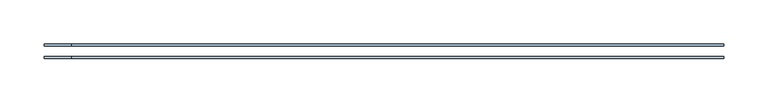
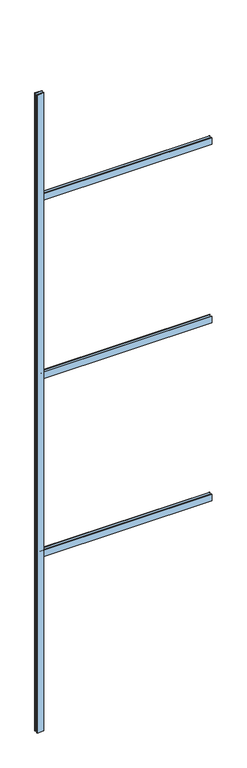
"""IFC4 building model written with IfcOpenShell, lengths in millimetres: window geometry, 32_IM_CF_verdeling_roedes : 32_IM_CF_verdeling_roedes_1x4."""

import ifcopenshell
import ifcopenshell.guid

model = None  # the IFC model being written
_history = None  # IfcOwnerHistory: only IFC2X3 demands one
_inside = {}  # id of a spatial element -> (the spatial element, [elements in it])
_under = {}  # id of a project, library or spatial element -> (it, [spatial elements below it])
_declared = {}  # id of a project -> (the project, [libraries it declares])
_typed = {}  # id of a type object -> (the type object, [elements of that type])
_made_of = {}  # id of a material, layer set ... -> (it, [elements and type objects made of it])


def new_model(schema):
    """Start an empty IFC model of exactly this schema.

    Asked for "IFC4X3", IfcOpenShell would pick the latest addendum, in which some entities
    have other attributes; the version numbers below select the first issue.
    IFC2X3 requires an IfcOwnerHistory on every rooted entity: one is made here for all.
    """
    global model, _history
    if schema == "IFC4X3":
        model = ifcopenshell.file(schema_version=(4, 3, 0, 0))
    else:
        model = ifcopenshell.file(schema=schema)
    _inside.clear()
    _under.clear()
    _declared.clear()
    _typed.clear()
    _made_of.clear()
    _history = None
    if model.schema == "IFC2X3":
        org = make("IfcOrganization", Name="unknown")
        user = make(
            "IfcPersonAndOrganization",
            ThePerson=make("IfcPerson", FamilyName="unknown"),
            TheOrganization=org,
        )
        app = make(
            "IfcApplication",
            ApplicationDeveloper=org,
            Version="unknown",
            ApplicationFullName="unknown",
            ApplicationIdentifier="unknown",
        )
        _history = make(
            "IfcOwnerHistory",
            OwningUser=user,
            OwningApplication=app,
            ChangeAction="ADDED",
            CreationDate=0,
        )
    return model


def make(cls, **values):
    """One entity of the class cls with the attributes given. An attribute that is None is left unset."""
    return model.create_entity(
        cls, **{name: value for name, value in values.items() if value is not None}
    )


def rooted(cls, **values):
    """An entity with a GlobalId (a new one), such as an element, a storey or a relation."""
    return make(cls, GlobalId=ifcopenshell.guid.new(), OwnerHistory=_history, **values)


def si_unit(unit_type, name, prefix=None):
    """IfcSIUnit, for example si_unit("LENGTHUNIT", "METRE", prefix="MILLI")."""
    return make("IfcSIUnit", UnitType=unit_type, Prefix=prefix, Name=name)


def assignment(units):
    """IfcUnitAssignment: the units of a project."""
    return None if units is None else make("IfcUnitAssignment", Units=units)


def point(xyz):
    """IfcCartesianPoint."""
    return None if xyz is None else make("IfcCartesianPoint", Coordinates=xyz)


def direction(xyz):
    """IfcDirection."""
    return None if xyz is None else make("IfcDirection", DirectionRatios=xyz)


def frame(location, z_axis=None, x_axis=None):
    """IfcAxis2Placement3D, a coordinate frame: its origin and axes. An axis left out is left unset."""
    return make(
        "IfcAxis2Placement3D",
        Location=point(location),
        Axis=direction(z_axis),
        RefDirection=direction(x_axis),
    )


def origin():
    """The frame at (0, 0, 0) with its axes left unset."""
    return frame((0.0, 0.0, 0.0))


def origin_with_axes():
    """The frame at (0, 0, 0) with the z axis (0, 0, 1) and the x axis (1, 0, 0) written out."""
    return frame((0.0, 0.0, 0.0), z_axis=(0.0, 0.0, 1.0), x_axis=(1.0, 0.0, 0.0))


def place(relative_to, where):
    """IfcLocalPlacement: puts the frame where relative to a parent placement (None: the world)."""
    return make(
        "IfcLocalPlacement", PlacementRelTo=relative_to, RelativePlacement=where
    )


def context(
    kind, dimensions, precision=None, world=None, true_north=None, identifier=None
):
    """IfcGeometricRepresentationContext, for example the 3D "Model" context."""
    return make(
        "IfcGeometricRepresentationContext",
        ContextIdentifier=identifier,
        ContextType=kind,
        CoordinateSpaceDimension=dimensions,
        Precision=precision,
        WorldCoordinateSystem=world,
        TrueNorth=true_north,
    )


def project(units=None, contexts=None):
    """IfcProject with its units and contexts."""
    return rooted(
        "IfcProject",
        Name="project",
        RepresentationContexts=contexts,
        UnitsInContext=assignment(units),
    )


def spatial(cls, under=None, at=None, **own):
    """A site, building, storey or space (cls), placed at a placement, below another one or the project."""
    s = rooted(cls, ObjectPlacement=at, **own)
    if under is not None:
        _under.setdefault(under.id(), (under, []))[1].append(s)
    return s


def polyline(points):
    """IfcPolyline through the points."""
    return make("IfcPolyline", Points=[point(p) for p in points])


def outline(outer, holes=None, kind="AREA"):
    """IfcArbitraryClosedProfileDef: a profile drawn as a closed curve; with holes, ...WithVoids."""
    if holes is None:
        return make("IfcArbitraryClosedProfileDef", ProfileType=kind, OuterCurve=outer)
    return make(
        "IfcArbitraryProfileDefWithVoids",
        ProfileType=kind,
        OuterCurve=outer,
        InnerCurves=holes,
    )


def extrude(swept, where, along, depth):
    """IfcExtrudedAreaSolid: the profile swept, set in the frame where, extruded along a direction by depth."""
    return make(
        "IfcExtrudedAreaSolid",
        SweptArea=swept,
        Position=where,
        ExtrudedDirection=direction(along),
        Depth=depth,
    )


def shape(context_of_items, identifier, shape_type, items):
    """IfcShapeRepresentation: the items that make up one representation, for example the "Body"."""
    return make(
        "IfcShapeRepresentation",
        ContextOfItems=context_of_items,
        RepresentationIdentifier=identifier,
        RepresentationType=shape_type,
        Items=items,
    )


def source(mapping_origin, context_of_items, identifier, shape_type, items):
    """IfcRepresentationMap: a shape defined once, which mapped items show again and again."""
    return make(
        "IfcRepresentationMap",
        MappingOrigin=mapping_origin,
        MappedRepresentation=shape(context_of_items, identifier, shape_type, items),
    )


def transform(
    local_origin,
    x_axis=None,
    y_axis=None,
    z_axis=None,
    scale=None,
    scale2=None,
    scale3=None,
    uniform=True,
):
    """IfcCartesianTransformationOperator3D, or its non-uniform kind. x_axis, y_axis, z_axis: its Axis1, 2, 3."""
    if uniform:
        return make(
            "IfcCartesianTransformationOperator3D",
            Axis1=direction(x_axis),
            Axis2=direction(y_axis),
            LocalOrigin=point(local_origin),
            Scale=scale,
            Axis3=direction(z_axis),
        )
    return make(
        "IfcCartesianTransformationOperator3DnonUniform",
        Axis1=direction(x_axis),
        Axis2=direction(y_axis),
        LocalOrigin=point(local_origin),
        Scale=scale,
        Axis3=direction(z_axis),
        Scale2=scale2,
        Scale3=scale3,
    )


def mapped(mapping_source, mapping_target):
    """IfcMappedItem: shows the shape of a source again, moved by a transform."""
    return make(
        "IfcMappedItem", MappingSource=mapping_source, MappingTarget=mapping_target
    )


def made_of(thing, what):
    """Note that an element or type object is made of a material, layer set ...; save() writes the relation."""
    if what is not None:
        _made_of.setdefault(what.id(), (what, []))[1].append(thing)
    return thing


def element(
    cls,
    number,
    at=None,
    inside=None,
    cuts=None,
    type_object=None,
    material=None,
    context=None,
    identifier="Body",
    shape_type=None,
    held_by="IfcProductDefinitionShape",
    body=None,
    shapes=None,
    **own,
):
    """One element of the class cls, such as IfcWall. Its Tag is "e" and its number.

    at: its placement. inside: the storey or other place that contains it. cuts: it is an
    opening in that element (IfcRelVoidsElement). A single representation is given by context,
    identifier, shape_type and body (its items); several are given by shapes. held_by: the class
    of the entity that holds the representations. save() writes the other relations.
    """
    e = rooted(cls, Tag="e%d" % number, ObjectPlacement=at, **own)
    if body is not None:
        shapes = [shape(context, identifier, shape_type, body)]
    if shapes is not None:
        e.Representation = make(held_by, Representations=shapes)
    if inside is not None:
        _inside.setdefault(inside.id(), (inside, []))[1].append(e)
    if cuts is not None:
        rooted(
            "IfcRelVoidsElement", RelatingBuildingElement=cuts, RelatedOpeningElement=e
        )
    if type_object is not None:
        _typed.setdefault(type_object.id(), (type_object, []))[1].append(e)
    return made_of(e, material)


def aggregate(whole, parts):
    """IfcRelAggregates: a whole, such as a stair, and the parts it consists of."""
    return rooted("IfcRelAggregates", RelatingObject=whole, RelatedObjects=parts)


def save(model, path):
    """Write the relations noted so far, then the file.

    IfcRelAggregates (storeys below a building ...), IfcRelContainedInSpatialStructure (elements
    in a storey), IfcRelDefinesByType, IfcRelAssociatesMaterial and IfcRelDeclares: one each for
    every whole, place, type object, material and project.
    """
    for whole, parts in _under.values():
        aggregate(whole, parts)
    for where, things in _inside.values():
        rooted(
            "IfcRelContainedInSpatialStructure",
            RelatedElements=things,
            RelatingStructure=where,
        )
    for kind, things in _typed.values():
        rooted("IfcRelDefinesByType", RelatedObjects=things, RelatingType=kind)
    for what, things in _made_of.values():
        rooted("IfcRelAssociatesMaterial", RelatedObjects=things, RelatingMaterial=what)
    for by, libraries in _declared.values():
        rooted("IfcRelDeclares", RelatingContext=by, RelatedDefinitions=libraries)
    model.write(path)


def window_eb90fcc1(model_context):
    return source(origin(), model_context, "Body", "SweptSolid", [
        extrude(outline(polyline([(-360.0, 6.0), (-390.0, 6.0), (-390.0, 8.0), (-360.0, 8.0), (-360.0, 6.0)])), origin_with_axes(), (0.0, 0.0, 1.0), 2945.0),
        extrude(outline(polyline([(-390.0, -8.0), (-390.0, -6.0), (-360.0, -6.0), (-360.0, -8.0), (-390.0, -8.0)])), origin_with_axes(), (0.0, 0.0, 1.0), 2945.0),
        extrude(outline(polyline([(375.0, 8.0), (375.0, 6.0), (-375.0, 6.0), (-375.0, 8.0), (375.0, 8.0)])), frame((0.0, 0.0, 805.0), z_axis=(0.0, 0.0, 1.0), x_axis=(1.0, 0.0, 0.0)), (0.0, 0.0, 1.0), 30.0),
        extrude(outline(polyline([(375.0, -6.0), (375.0, -8.0), (-375.0, -8.0), (-375.0, -6.0), (375.0, -6.0)])), frame((0.0, 0.0, 805.0), z_axis=(0.0, 0.0, 1.0), x_axis=(1.0, 0.0, 0.0)), (0.0, 0.0, 1.0), 30.0),
        extrude(outline(polyline([(375.0, 8.0), (375.0, 6.0), (-375.0, 6.0), (-375.0, 8.0), (375.0, 8.0)])), frame((0.0, 0.0, 2450.0), z_axis=(0.0, 0.0, 1.0), x_axis=(1.0, 0.0, 0.0)), (0.0, 0.0, 1.0), 30.0),
        extrude(outline(polyline([(375.0, -6.0), (375.0, -8.0), (-375.0, -8.0), (-375.0, -6.0), (375.0, -6.0)])), frame((0.0, 0.0, 2450.0), z_axis=(0.0, 0.0, 1.0), x_axis=(1.0, 0.0, 0.0)), (0.0, 0.0, 1.0), 30.0),
        extrude(outline(polyline([(375.0, 8.0), (375.0, 6.0), (-375.0, 6.0), (-375.0, 8.0), (375.0, 8.0)])), frame((0.0, 0.0, 1625.0), z_axis=(0.0, 0.0, 1.0), x_axis=(1.0, 0.0, 0.0)), (0.0, 0.0, 1.0), 30.0),
        extrude(outline(polyline([(375.0, -6.0), (375.0, -8.0), (-375.0, -8.0), (-375.0, -6.0), (375.0, -6.0)])), frame((0.0, 0.0, 1625.0), z_axis=(0.0, 0.0, 1.0), x_axis=(1.0, 0.0, 0.0)), (0.0, 0.0, 1.0), 30.0),
    ])


if __name__ == "__main__":
    model = new_model("IFC4")
    model_context = context("Model", 3, world=origin())
    ifc_project = project(units=[si_unit("LENGTHUNIT", "METRE", prefix="MILLI")], contexts=[model_context])
    site = spatial("IfcSite", under=ifc_project)
    building = spatial("IfcBuilding", under=site)
    placement = place(None, origin())
    window_shape = window_eb90fcc1(model_context)
    element("IfcWindow", 1, ObjectType="32_IM_CF_verdeling_roedes : 32_IM_CF_verdeling_roedes_1x4", at=placement, inside=building, context=model_context, shape_type="MappedRepresentation", body=[
        mapped(window_shape, transform((0.0, 0.0, 0.0), x_axis=(1.0, 0.0, 0.0), y_axis=(0.0, 1.0, 0.0), z_axis=(0.0, 0.0, 1.0))),
    ])
    save(model, "model.ifc")
